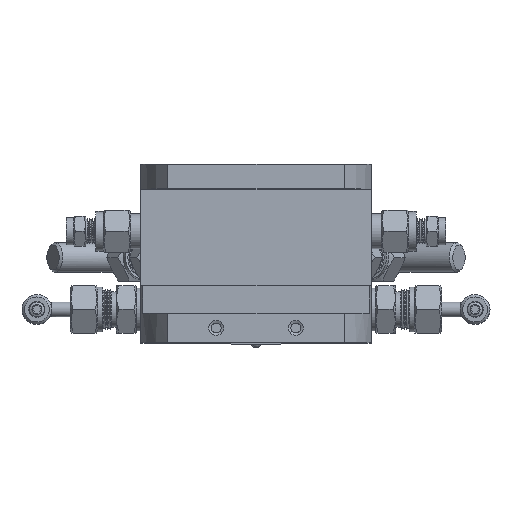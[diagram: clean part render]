
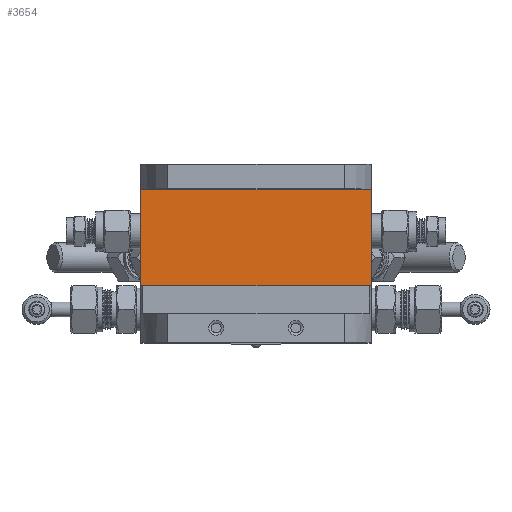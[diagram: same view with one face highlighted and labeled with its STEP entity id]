
A CAD part, top view. The second image highlights one B-rep face of the part: STEP entity #3654.
In plain terms, the highlighted planar face has unit normal (0, 0, 1).
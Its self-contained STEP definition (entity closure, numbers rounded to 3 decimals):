
#3654=ADVANCED_FACE('',(#17927),#17929,.F.);
#17927=FACE_BOUND('',#17928,.T.);
#17928=EDGE_LOOP('',(#30416,#30417,#30418,#30419));
#17929=PLANE('',#17930);
#17930=AXIS2_PLACEMENT_3D('',#17931,#17932,#17933);
#17931=CARTESIAN_POINT('',(139.,-10.,177.5));
#17932=DIRECTION('',(0.,0.,-1.));
#17933=DIRECTION('',(-1.,0.,0.));
#30416=ORIENTED_EDGE('',*,*,#35868,.T.);
#30417=ORIENTED_EDGE('',*,*,#35869,.F.);
#30418=ORIENTED_EDGE('',*,*,#35870,.F.);
#30419=ORIENTED_EDGE('',*,*,#35871,.F.);
#35868=EDGE_CURVE('',#39755,#39756,#39757,.T.);
#35869=EDGE_CURVE('',#39758,#39756,#39759,.T.);
#35870=EDGE_CURVE('',#39760,#39758,#39761,.T.);
#35871=EDGE_CURVE('',#39755,#39760,#39762,.T.);
#39755=VERTEX_POINT('',#49220);
#39756=VERTEX_POINT('',#49221);
#39757=LINE('',#49222,#49223);
#39758=VERTEX_POINT('',#49225);
#39759=LINE('',#49226,#49227);
#39760=VERTEX_POINT('',#49229);
#39761=LINE('',#49230,#49231);
#39762=LINE('',#49233,#49234);
#49220=CARTESIAN_POINT('',(185.675,-49.,177.5));
#49221=CARTESIAN_POINT('',(278.325,-49.,177.5));
#49222=CARTESIAN_POINT('',(185.675,-49.,177.5));
#49223=VECTOR('',#49224,1.);
#49224=DIRECTION('',(1.,0.,0.));
#49225=CARTESIAN_POINT('',(278.325,-10.,177.5));
#49226=CARTESIAN_POINT('',(278.325,-10.,177.5));
#49227=VECTOR('',#49228,1.);
#49228=DIRECTION('',(0.,-1.,0.));
#49229=CARTESIAN_POINT('',(185.675,-10.,177.5));
#49230=CARTESIAN_POINT('',(185.675,-10.,177.5));
#49231=VECTOR('',#49232,1.);
#49232=DIRECTION('',(1.,0.,0.));
#49233=CARTESIAN_POINT('',(185.675,-49.,177.5));
#49234=VECTOR('',#49235,1.);
#49235=DIRECTION('',(0.,1.,0.));
